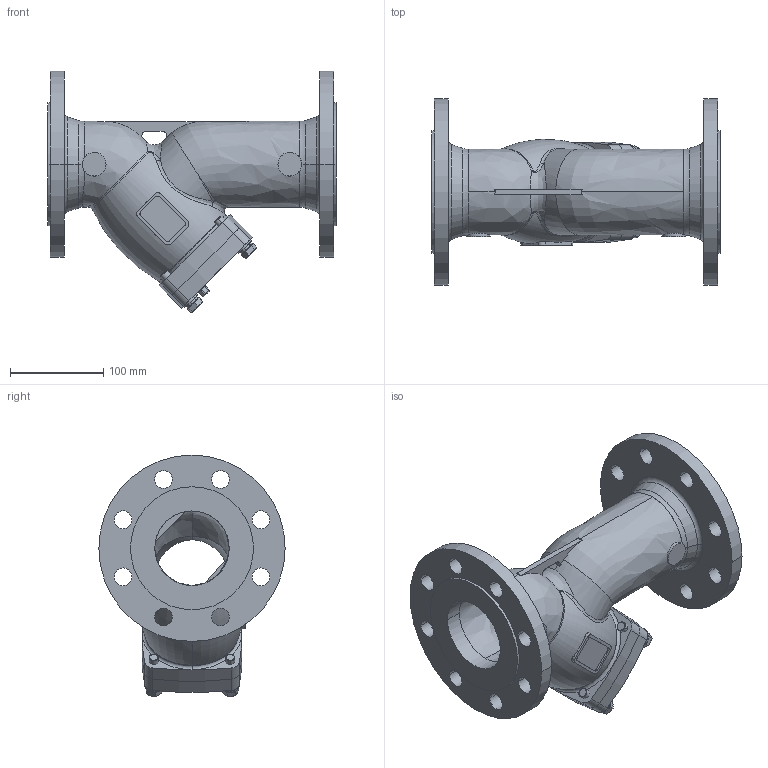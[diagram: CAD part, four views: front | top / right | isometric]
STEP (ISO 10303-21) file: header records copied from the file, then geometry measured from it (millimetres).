
FILE_DESCRIPTION(('Open CASCADE Model'),'2;1');
FILE_NAME('Open CASCADE Shape Model','2023-03-02T07:12:06',('Author'),( 'Open CASCADE'),'Open CASCADE STEP processor 7.3','Open CASCADE 7.3' ,'Unknown');
FILE_SCHEMA(('AUTOMOTIVE_DESIGN { 1 0 10303 214 1 1 1 1 }'));
Length unit declared in the file: millimetre
Products named in the file (16): Open CASCADE STEP translator 7.3 1; Open CASCADE STEP translator 7.3 1.1; Open CASCADE STEP translator 7.3 1.2; Open CASCADE STEP translator 7.3 1.3; Open CASCADE STEP translator 7.3 1.4; Open CASCADE STEP translator 7.3 1.5; Open CASCADE STEP translator 7.3 1.6; Open CASCADE STEP translator 7.3 1.7; Open CASCADE STEP translator 7.3 1.8; Open CASCADE STEP translator 7.3 1.9; Open CASCADE STEP translator 7.3 1.10; Open CASCADE STEP translator 7.3 1.11; Open CASCADE STEP translator 7.3 1.12; Open CASCADE STEP translator 7.3 1.13; Open CASCADE STEP translator 7.3 1.14; Open CASCADE STEP translator 7.3 1.15
Assembly tree (15 placements, depth 2):
  Open CASCADE STEP translator 7.3 1
    Open CASCADE STEP translator 7.3 1.1
    Open CASCADE STEP translator 7.3 1.2
    Open CASCADE STEP translator 7.3 1.3
    Open CASCADE STEP translator 7.3 1.4
    Open CASCADE STEP translator 7.3 1.5
    Open CASCADE STEP translator 7.3 1.6
    Open CASCADE STEP translator 7.3 1.7
    Open CASCADE STEP translator 7.3 1.8
    Open CASCADE STEP translator 7.3 1.9
    Open CASCADE STEP translator 7.3 1.10
    Open CASCADE STEP translator 7.3 1.11
    Open CASCADE STEP translator 7.3 1.12
    Open CASCADE STEP translator 7.3 1.13
    Open CASCADE STEP translator 7.3 1.14
    Open CASCADE STEP translator 7.3 1.15
Bounding box: 310 x 200 x 259.61 mm (x, y, z)
Volume: 1654588.9 mm3; surface area: 382496.3 mm2
Topology: 15 solids, 15 shells, 392 faces, 972 edges, 614 vertices
Faces by surface type: cylinder 161, plane 132, cone 46, bspline 27, torus 14, sphere 8, revolution 4
Entity records: 45104 total; most frequent: CARTESIAN_POINT 26333, DIRECTION 3277, ORIENTED_EDGE 1932, PCURVE 1932, DEFINITIONAL_REPRESENTATION 1932, LINE 1368, VECTOR 1368, EDGE_CURVE 966
